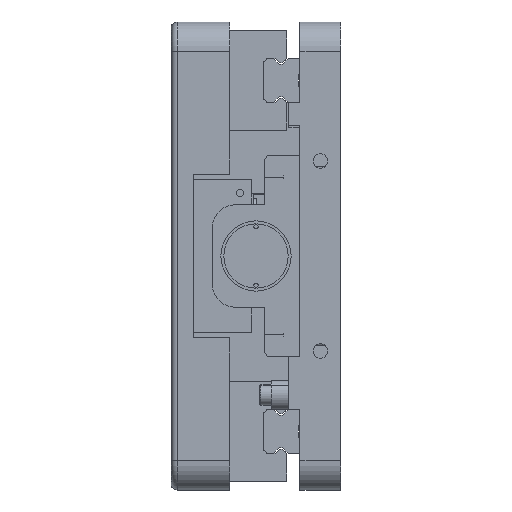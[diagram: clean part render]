
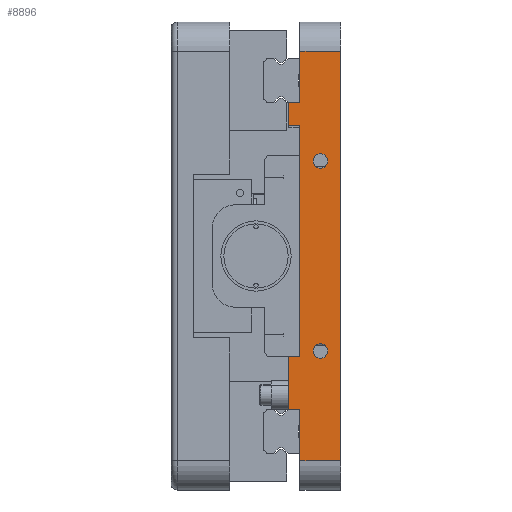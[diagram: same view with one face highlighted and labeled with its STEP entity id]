
A CAD part, left-side view. The second image highlights one B-rep face of the part: STEP entity #8896.
In plain terms, the highlighted planar face has unit normal (-1, 0, 0).
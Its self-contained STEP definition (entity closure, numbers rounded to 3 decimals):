
#190 = CARTESIAN_POINT ( 'NONE',  ( -136.5, 14., -80. ) ) ;
#280 = CARTESIAN_POINT ( 'NONE',  ( -136.5, 14., 44.5 ) ) ;
#874 = ORIENTED_EDGE ( 'NONE', *, *, #8128, .T. ) ;
#1233 = LINE ( 'NONE', #190, #33102 ) ;
#1301 = LINE ( 'NONE', #49264, #76554 ) ;
#1549 = VERTEX_POINT ( 'NONE', #10750 ) ;
#1592 = LINE ( 'NONE', #23988, #74549 ) ;
#2293 = ORIENTED_EDGE ( 'NONE', *, *, #34355, .T. ) ;
#2508 = CARTESIAN_POINT ( 'NONE',  ( -136.5, -110.209, 44.5 ) ) ;
#3617 = CIRCLE ( 'NONE', #45348, 2.5 ) ;
#4019 = AXIS2_PLACEMENT_3D ( 'NONE', #91477, #77418, #84457 ) ;
#4199 = LINE ( 'NONE', #27620, #38380 ) ;
#4327 = CARTESIAN_POINT ( 'NONE',  ( -136.5, 14., 52.5 ) ) ;
#5451 = LINE ( 'NONE', #2508, #80739 ) ;
#5885 = VERTEX_POINT ( 'NONE', #77761 ) ;
#6819 = DIRECTION ( 'NONE',  ( -1., 0., 0. ) ) ;
#6871 = ORIENTED_EDGE ( 'NONE', *, *, #37900, .T. ) ;
#6970 = EDGE_CURVE ( 'NONE', #94556, #1549, #3617, .T. ) ;
#7104 = ORIENTED_EDGE ( 'NONE', *, *, #44255, .F. ) ;
#7719 = LINE ( 'NONE', #68386, #70417 ) ;
#8128 = EDGE_CURVE ( 'NONE', #38729, #10471, #56321, .T. ) ;
#8896 = ADVANCED_FACE ( 'NONE', ( #9075, #37677, #45552 ), #26994, .F. ) ;
#9075 = FACE_BOUND ( 'NONE', #19086, .T. ) ;
#10471 = VERTEX_POINT ( 'NONE', #51370 ) ;
#10750 = CARTESIAN_POINT ( 'NONE',  ( -136.5, 7., -30. ) ) ;
#12951 = VERTEX_POINT ( 'NONE', #50724 ) ;
#14146 = CARTESIAN_POINT ( 'NONE',  ( -136.5, 7., 35. ) ) ;
#18409 = CARTESIAN_POINT ( 'NONE',  ( -136.5, 17.8, -34.5 ) ) ;
#19086 = EDGE_LOOP ( 'NONE', ( #78503, #81394 ) ) ;
#19238 = CARTESIAN_POINT ( 'NONE',  ( -136.5, 7., -32.5 ) ) ;
#19444 = DIRECTION ( 'NONE',  ( 0., 0., -1. ) ) ;
#19839 = VECTOR ( 'NONE', #19444, 1000. ) ;
#19958 = VECTOR ( 'NONE', #32462, 1000. ) ;
#20100 = VERTEX_POINT ( 'NONE', #25263 ) ;
#21003 = EDGE_CURVE ( 'NONE', #20100, #35708, #76541, .T. ) ;
#21063 = CARTESIAN_POINT ( 'NONE',  ( -136.5, 17.8, -52.5 ) ) ;
#21393 = CARTESIAN_POINT ( 'NONE',  ( -136.5, 7., -35. ) ) ;
#22127 = AXIS2_PLACEMENT_3D ( 'NONE', #54628, #24992, #32674 ) ;
#23988 = CARTESIAN_POINT ( 'NONE',  ( -136.5, -274.382, -52.5 ) ) ;
#24109 = EDGE_CURVE ( 'NONE', #52208, #12951, #49464, .T. ) ;
#24992 = DIRECTION ( 'NONE',  ( -1., 0., 0. ) ) ;
#25263 = CARTESIAN_POINT ( 'NONE',  ( -136.5, 7., 30. ) ) ;
#26994 = PLANE ( 'NONE',  #4019 ) ;
#27620 = CARTESIAN_POINT ( 'NONE',  ( -136.5, 17.8, 70. ) ) ;
#28033 = CARTESIAN_POINT ( 'NONE',  ( -136.5, 14., 80. ) ) ;
#28247 = DIRECTION ( 'NONE',  ( 0., 0., 1. ) ) ;
#29248 = CARTESIAN_POINT ( 'NONE',  ( -136.5, 14., 70. ) ) ;
#29536 = CARTESIAN_POINT ( 'NONE',  ( -136.5, 17.8, -70. ) ) ;
#29557 = VECTOR ( 'NONE', #91105, 1000. ) ;
#29558 = VERTEX_POINT ( 'NONE', #45785 ) ;
#30054 = VECTOR ( 'NONE', #64624, 1000. ) ;
#30412 = EDGE_CURVE ( 'NONE', #40880, #52208, #1233, .T. ) ;
#32462 = DIRECTION ( 'NONE',  ( 0., 1., 0. ) ) ;
#32674 = DIRECTION ( 'NONE',  ( 0., 0., 1. ) ) ;
#32807 = EDGE_CURVE ( 'NONE', #38729, #5885, #5451, .T. ) ;
#33102 = VECTOR ( 'NONE', #64854, 1000. ) ;
#33143 = ORIENTED_EDGE ( 'NONE', *, *, #80886, .T. ) ;
#33556 = ORIENTED_EDGE ( 'NONE', *, *, #24109, .T. ) ;
#34355 = EDGE_CURVE ( 'NONE', #57985, #29558, #43946, .T. ) ;
#35708 = VERTEX_POINT ( 'NONE', #14146 ) ;
#36677 = VERTEX_POINT ( 'NONE', #18409 ) ;
#37677 = FACE_BOUND ( 'NONE', #67365, .T. ) ;
#37698 = DIRECTION ( 'NONE',  ( 0., 0., 1. ) ) ;
#37900 = EDGE_CURVE ( 'NONE', #89314, #38698, #4199, .T. ) ;
#38380 = VECTOR ( 'NONE', #93380, 1000. ) ;
#38698 = VERTEX_POINT ( 'NONE', #29248 ) ;
#38729 = VERTEX_POINT ( 'NONE', #280 ) ;
#39627 = LINE ( 'NONE', #74290, #51084 ) ;
#40828 = EDGE_CURVE ( 'NONE', #40880, #63745, #1592, .T. ) ;
#40880 = VERTEX_POINT ( 'NONE', #61547 ) ;
#43158 = ORIENTED_EDGE ( 'NONE', *, *, #40828, .F. ) ;
#43946 = LINE ( 'NONE', #76478, #19958 ) ;
#44255 = EDGE_CURVE ( 'NONE', #35708, #20100, #72368, .T. ) ;
#44775 = ORIENTED_EDGE ( 'NONE', *, *, #46163, .F. ) ;
#45348 = AXIS2_PLACEMENT_3D ( 'NONE', #19238, #56167, #77925 ) ;
#45552 = FACE_OUTER_BOUND ( 'NONE', #49102, .T. ) ;
#45736 = VECTOR ( 'NONE', #86426, 1000. ) ;
#45785 = CARTESIAN_POINT ( 'NONE',  ( -136.5, 17.8, 52.5 ) ) ;
#45981 = AXIS2_PLACEMENT_3D ( 'NONE', #50461, #6819, #65076 ) ;
#46163 = EDGE_CURVE ( 'NONE', #63745, #36677, #7719, .T. ) ;
#48053 = DIRECTION ( 'NONE',  ( -1., 0., 0. ) ) ;
#49102 = EDGE_LOOP ( 'NONE', ( #89803, #6871, #93901, #2293, #53516, #81572, #874, #33143, #44775, #43158, #62979, #33556 ) ) ;
#49264 = CARTESIAN_POINT ( 'NONE',  ( -136.5, 0., -80. ) ) ;
#49464 = LINE ( 'NONE', #29536, #30054 ) ;
#50461 = CARTESIAN_POINT ( 'NONE',  ( -136.5, 7., 32.5 ) ) ;
#50724 = CARTESIAN_POINT ( 'NONE',  ( -136.5, 0., -70. ) ) ;
#51084 = VECTOR ( 'NONE', #37698, 1000. ) ;
#51370 = CARTESIAN_POINT ( 'NONE',  ( -136.5, 14., -34.5 ) ) ;
#52208 = VERTEX_POINT ( 'NONE', #63898 ) ;
#53506 = LINE ( 'NONE', #63254, #29557 ) ;
#53516 = ORIENTED_EDGE ( 'NONE', *, *, #74284, .F. ) ;
#54628 = CARTESIAN_POINT ( 'NONE',  ( -136.5, 7., -32.5 ) ) ;
#55018 = CARTESIAN_POINT ( 'NONE',  ( -136.5, 7., 32.5 ) ) ;
#56167 = DIRECTION ( 'NONE',  ( -1., 0., 0. ) ) ;
#56321 = LINE ( 'NONE', #63117, #19839 ) ;
#57985 = VERTEX_POINT ( 'NONE', #4327 ) ;
#58458 = EDGE_CURVE ( 'NONE', #1549, #94556, #88418, .T. ) ;
#61547 = CARTESIAN_POINT ( 'NONE',  ( -136.5, 14., -52.5 ) ) ;
#62979 = ORIENTED_EDGE ( 'NONE', *, *, #30412, .T. ) ;
#63117 = CARTESIAN_POINT ( 'NONE',  ( -136.5, 14., 44.5 ) ) ;
#63254 = CARTESIAN_POINT ( 'NONE',  ( -136.5, -110.209, -34.5 ) ) ;
#63745 = VERTEX_POINT ( 'NONE', #21063 ) ;
#63898 = CARTESIAN_POINT ( 'NONE',  ( -136.5, 14., -70. ) ) ;
#64624 = DIRECTION ( 'NONE',  ( 0., -1., 0. ) ) ;
#64854 = DIRECTION ( 'NONE',  ( 0., 0., -1. ) ) ;
#65076 = DIRECTION ( 'NONE',  ( 0., 0., 1. ) ) ;
#67365 = EDGE_LOOP ( 'NONE', ( #7104, #80765 ) ) ;
#68307 = AXIS2_PLACEMENT_3D ( 'NONE', #55018, #48053, #91168 ) ;
#68386 = CARTESIAN_POINT ( 'NONE',  ( -136.5, 17.8, -80. ) ) ;
#68692 = DIRECTION ( 'NONE',  ( 0., 0., 1. ) ) ;
#69678 = CARTESIAN_POINT ( 'NONE',  ( -136.5, 0., 70. ) ) ;
#70417 = VECTOR ( 'NONE', #68692, 1000. ) ;
#72368 = CIRCLE ( 'NONE', #45981, 2.5 ) ;
#74284 = EDGE_CURVE ( 'NONE', #5885, #29558, #39627, .T. ) ;
#74290 = CARTESIAN_POINT ( 'NONE',  ( -136.5, 17.8, -80. ) ) ;
#74549 = VECTOR ( 'NONE', #82699, 1000. ) ;
#76478 = CARTESIAN_POINT ( 'NONE',  ( -136.5, -274.382, 52.5 ) ) ;
#76541 = CIRCLE ( 'NONE', #68307, 2.5 ) ;
#76554 = VECTOR ( 'NONE', #28247, 1000. ) ;
#77418 = DIRECTION ( 'NONE',  ( 1., 0., 0. ) ) ;
#77761 = CARTESIAN_POINT ( 'NONE',  ( -136.5, 17.8, 44.5 ) ) ;
#77925 = DIRECTION ( 'NONE',  ( 0., 0., 1. ) ) ;
#78503 = ORIENTED_EDGE ( 'NONE', *, *, #58458, .F. ) ;
#80739 = VECTOR ( 'NONE', #83161, 1000. ) ;
#80765 = ORIENTED_EDGE ( 'NONE', *, *, #21003, .F. ) ;
#80886 = EDGE_CURVE ( 'NONE', #10471, #36677, #53506, .T. ) ;
#81083 = LINE ( 'NONE', #28033, #45736 ) ;
#81394 = ORIENTED_EDGE ( 'NONE', *, *, #6970, .F. ) ;
#81572 = ORIENTED_EDGE ( 'NONE', *, *, #32807, .F. ) ;
#82699 = DIRECTION ( 'NONE',  ( 0., 1., 0. ) ) ;
#83161 = DIRECTION ( 'NONE',  ( 0., 1., 0. ) ) ;
#84457 = DIRECTION ( 'NONE',  ( 0., 0., -1. ) ) ;
#86426 = DIRECTION ( 'NONE',  ( 0., 0., -1. ) ) ;
#86783 = EDGE_CURVE ( 'NONE', #38698, #57985, #81083, .T. ) ;
#88418 = CIRCLE ( 'NONE', #22127, 2.5 ) ;
#89314 = VERTEX_POINT ( 'NONE', #69678 ) ;
#89803 = ORIENTED_EDGE ( 'NONE', *, *, #91803, .T. ) ;
#91105 = DIRECTION ( 'NONE',  ( 0., 1., 0. ) ) ;
#91168 = DIRECTION ( 'NONE',  ( 0., 0., 1. ) ) ;
#91477 = CARTESIAN_POINT ( 'NONE',  ( -136.5, 17.8, -80. ) ) ;
#91803 = EDGE_CURVE ( 'NONE', #12951, #89314, #1301, .T. ) ;
#93380 = DIRECTION ( 'NONE',  ( 0., 1., 0. ) ) ;
#93901 = ORIENTED_EDGE ( 'NONE', *, *, #86783, .T. ) ;
#94556 = VERTEX_POINT ( 'NONE', #21393 ) ;
